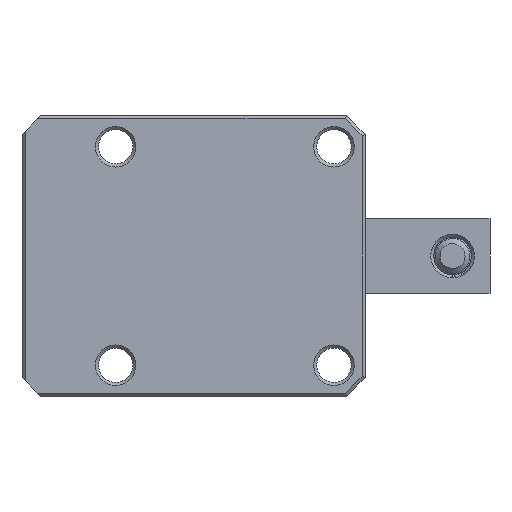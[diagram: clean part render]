
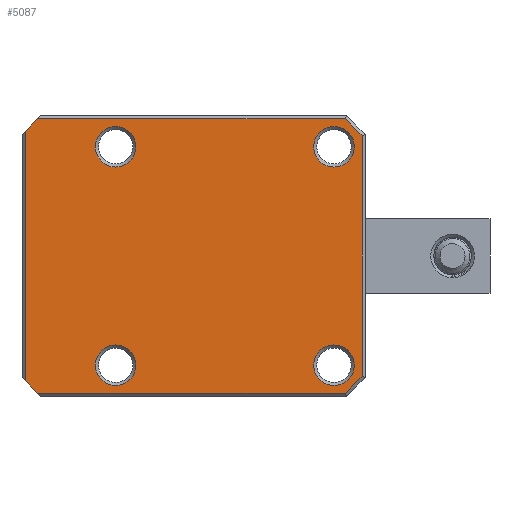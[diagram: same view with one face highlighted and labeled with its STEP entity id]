
A CAD part, front view. The second image highlights one B-rep face of the part: STEP entity #5087.
In plain terms, the highlighted planar face has unit normal (0, -1, 0).
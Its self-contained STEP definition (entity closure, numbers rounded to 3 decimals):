
#168=PLANE('',#5625);
#256=FACE_BOUND('',#806,.T.);
#257=FACE_BOUND('',#807,.T.);
#258=FACE_BOUND('',#808,.T.);
#259=FACE_BOUND('',#809,.T.);
#495=FACE_OUTER_BOUND('',#805,.T.);
#805=EDGE_LOOP('',(#3737,#3738,#3739,#3740,#3741,#3742,#3743,#3744));
#806=EDGE_LOOP('',(#3745));
#807=EDGE_LOOP('',(#3746));
#808=EDGE_LOOP('',(#3747));
#809=EDGE_LOOP('',(#3748));
#1173=LINE('',#8207,#1554);
#1179=LINE('',#8218,#1560);
#1190=LINE('',#8242,#1571);
#1214=LINE('',#8293,#1595);
#1217=LINE('',#8298,#1598);
#1218=LINE('',#8300,#1599);
#1219=LINE('',#8302,#1600);
#1220=LINE('',#8303,#1601);
#1554=VECTOR('',#6403,1000.);
#1560=VECTOR('',#6413,1000.);
#1571=VECTOR('',#6438,1000.);
#1595=VECTOR('',#6486,1000.);
#1598=VECTOR('',#6493,1000.);
#1599=VECTOR('',#6494,1000.);
#1600=VECTOR('',#6495,1000.);
#1601=VECTOR('',#6496,1000.);
#1880=CIRCLE('',#5548,3.25);
#1882=CIRCLE('',#5551,3.25);
#1884=CIRCLE('',#5554,3.25);
#1887=CIRCLE('',#5558,3.25);
#2181=VERTEX_POINT('',#7852);
#2182=VERTEX_POINT('',#7857);
#2185=VERTEX_POINT('',#7864);
#2188=VERTEX_POINT('',#7872);
#2252=VERTEX_POINT('',#8204);
#2253=VERTEX_POINT('',#8206);
#2255=VERTEX_POINT('',#8215);
#2256=VERTEX_POINT('',#8217);
#2262=VERTEX_POINT('',#8241);
#2277=VERTEX_POINT('',#8292);
#2278=VERTEX_POINT('',#8299);
#2279=VERTEX_POINT('',#8301);
#2684=EDGE_CURVE('',#2181,#2181,#1880,.T.);
#2687=EDGE_CURVE('',#2182,#2182,#1882,.T.);
#2690=EDGE_CURVE('',#2185,#2185,#1884,.T.);
#2694=EDGE_CURVE('',#2188,#2188,#1887,.T.);
#2787=EDGE_CURVE('',#2253,#2252,#1173,.T.);
#2793=EDGE_CURVE('',#2255,#2256,#1179,.T.);
#2805=EDGE_CURVE('',#2262,#2255,#1190,.T.);
#2831=EDGE_CURVE('',#2277,#2253,#1214,.T.);
#2834=EDGE_CURVE('',#2252,#2256,#1217,.T.);
#2835=EDGE_CURVE('',#2262,#2278,#1218,.T.);
#2836=EDGE_CURVE('',#2278,#2279,#1219,.T.);
#2837=EDGE_CURVE('',#2279,#2277,#1220,.T.);
#3737=ORIENTED_EDGE('',*,*,#2834,.T.);
#3738=ORIENTED_EDGE('',*,*,#2793,.F.);
#3739=ORIENTED_EDGE('',*,*,#2805,.F.);
#3740=ORIENTED_EDGE('',*,*,#2835,.T.);
#3741=ORIENTED_EDGE('',*,*,#2836,.T.);
#3742=ORIENTED_EDGE('',*,*,#2837,.T.);
#3743=ORIENTED_EDGE('',*,*,#2831,.T.);
#3744=ORIENTED_EDGE('',*,*,#2787,.T.);
#3745=ORIENTED_EDGE('',*,*,#2684,.T.);
#3746=ORIENTED_EDGE('',*,*,#2687,.T.);
#3747=ORIENTED_EDGE('',*,*,#2690,.T.);
#3748=ORIENTED_EDGE('',*,*,#2694,.T.);
#5087=ADVANCED_FACE('',(#495,#256,#257,#258,#259),#168,.T.);
#5548=AXIS2_PLACEMENT_3D('',#7854,#6225,#6226);
#5551=AXIS2_PLACEMENT_3D('',#7859,#6232,#6233);
#5554=AXIS2_PLACEMENT_3D('',#7866,#6239,#6240);
#5558=AXIS2_PLACEMENT_3D('',#7874,#6248,#6249);
#5625=AXIS2_PLACEMENT_3D('',#8297,#6491,#6492);
#6225=DIRECTION('center_axis',(0.,1.,0.));
#6226=DIRECTION('ref_axis',(0.,0.,-1.));
#6232=DIRECTION('center_axis',(0.,1.,0.));
#6233=DIRECTION('ref_axis',(0.,0.,-1.));
#6239=DIRECTION('center_axis',(0.,1.,0.));
#6240=DIRECTION('ref_axis',(0.,0.,-1.));
#6248=DIRECTION('center_axis',(0.,1.,0.));
#6249=DIRECTION('ref_axis',(0.,0.,-1.));
#6403=DIRECTION('',(-0.707,0.,-0.707));
#6413=DIRECTION('',(-0.707,0.,0.707));
#6438=DIRECTION('',(-1.,0.,0.));
#6486=DIRECTION('',(-1.,0.,0.));
#6491=DIRECTION('center_axis',(0.,-1.,0.));
#6492=DIRECTION('ref_axis',(0.,0.,-1.));
#6493=DIRECTION('',(0.,0.,-1.));
#6494=DIRECTION('',(0.707,0.,0.707));
#6495=DIRECTION('',(0.,0.,1.));
#6496=DIRECTION('',(-0.707,0.,0.707));
#7852=CARTESIAN_POINT('',(480.63,64.989,-14.25));
#7854=CARTESIAN_POINT('Origin',(480.63,64.989,-17.5));
#7857=CARTESIAN_POINT('',(445.63,64.989,-14.25));
#7859=CARTESIAN_POINT('Origin',(445.63,64.989,-17.5));
#7864=CARTESIAN_POINT('',(445.63,64.989,20.75));
#7866=CARTESIAN_POINT('Origin',(445.63,64.989,17.5));
#7872=CARTESIAN_POINT('',(480.63,64.989,20.75));
#7874=CARTESIAN_POINT('Origin',(480.63,64.989,17.5));
#8204=CARTESIAN_POINT('',(431.13,64.989,20.));
#8206=CARTESIAN_POINT('',(433.13,64.989,22.));
#8207=CARTESIAN_POINT('',(432.13,64.989,21.));
#8215=CARTESIAN_POINT('',(433.13,64.989,-22.));
#8217=CARTESIAN_POINT('',(431.13,64.989,-20.));
#8218=CARTESIAN_POINT('',(432.13,64.989,-21.));
#8241=CARTESIAN_POINT('',(482.423,64.989,-22.));
#8242=CARTESIAN_POINT('',(457.88,64.989,-22.));
#8292=CARTESIAN_POINT('',(482.423,64.989,22.));
#8293=CARTESIAN_POINT('',(457.88,64.989,22.));
#8297=CARTESIAN_POINT('Origin',(431.13,64.989,22.));
#8298=CARTESIAN_POINT('',(431.13,64.989,0.));
#8299=CARTESIAN_POINT('',(485.13,64.989,-19.293));
#8300=CARTESIAN_POINT('',(482.423,64.989,-22.));
#8301=CARTESIAN_POINT('',(485.13,64.989,19.293));
#8302=CARTESIAN_POINT('',(485.13,64.989,0.));
#8303=CARTESIAN_POINT('',(485.13,64.989,19.293));
